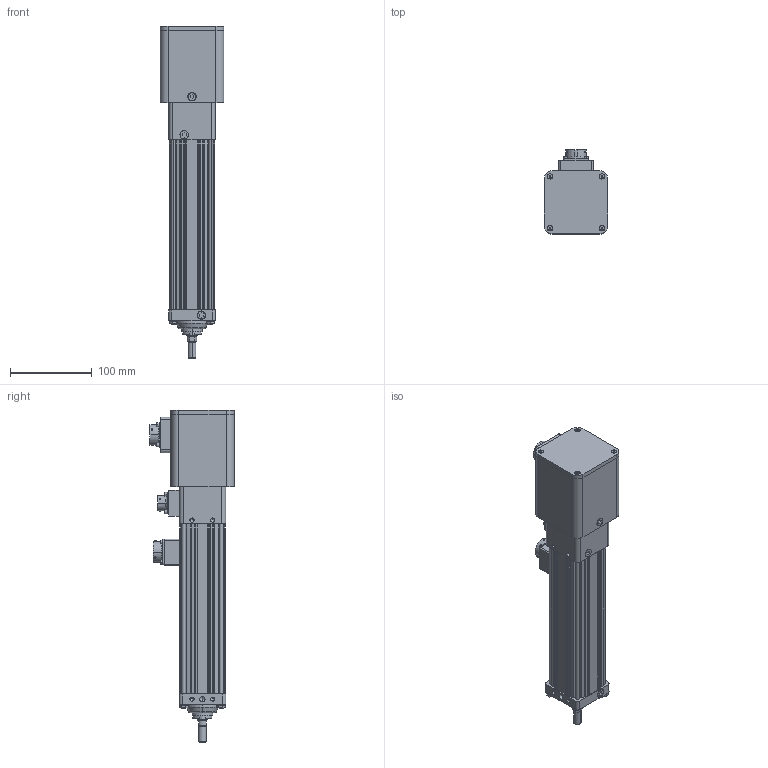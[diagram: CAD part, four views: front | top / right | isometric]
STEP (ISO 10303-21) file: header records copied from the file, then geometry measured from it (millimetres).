
FILE_DESCRIPTION (( 'STEP AP203' ), '1' );
FILE_NAME ('GSX20-6 inch Double Side Mount, Std Conn, A Rod, Stegmann, RB.step', '2007-11-02T08:29:42', ( '' ), ( '' ), 'SwSTEP 2.0', 'SolidWorks 2007', '' );
FILE_SCHEMA (( 'CONFIG_CONTROL_DESIGN' ));
Length unit declared in the file: inch
Products named in the file (23): 11028; 20047; 31527_90585A200; 13595; 31482; 10221; 12367; 12710; 12709; TieRod_34220-6"; 11922_48805K222; 19738; CYLINDER_31367-6 inch; END CAP-STEGMANN_33926; REAR BRAKE_31206; 33591; GSX20-6 inch Double Side Mount, Std Conn, A Rod, Stegmann, RB; CASE_31193-6 inch; 12692; MAIN ROD_A-MAIN ROD-6 inch; END CAP-STEGMANN_DSM-33926-STD-RB; 18929; 31220_default
Assembly tree (48 placements, depth 3):
  GSX20-6 inch Double Side Mount, Std Conn, A Rod, Stegmann, RB
    12367  x4
    MAIN ROD_A-MAIN ROD-6 inch
    31482
    TieRod_34220-6"  x4
    12710  x4
    CASE_31193-6 inch
    10221
    12709  x4
    12692  x2
    11922_48805K222
    19738
    18929
    31220_default
    CYLINDER_31367-6 inch
    END CAP-STEGMANN_DSM-33926-STD-RB
      31527_90585A200  x4
      11028
      12367  x8
      END CAP-STEGMANN_33926
      11922_48805K222  x2
      13595
      REAR BRAKE_31206
      20047
      33591
Bounding box: 77.37 x 102.82 x 405.69 mm (x, y, z)
Volume: 782458.6 mm3; surface area: 328680.6 mm2
Topology: 47 solids, 47 shells, 2556 faces, 5942 edges, 3621 vertices
Faces by surface type: cylinder 1067, plane 751, cone 588, torus 88, sphere 62
Entity records: 57972 total; most frequent: CARTESIAN_POINT 10891, DIRECTION 10054, ORIENTED_EDGE 8476, EDGE_CURVE 4238, AXIS2_PLACEMENT_3D 4079, VERTEX_POINT 2704, EDGE_LOOP 2236, CIRCLE 2179
